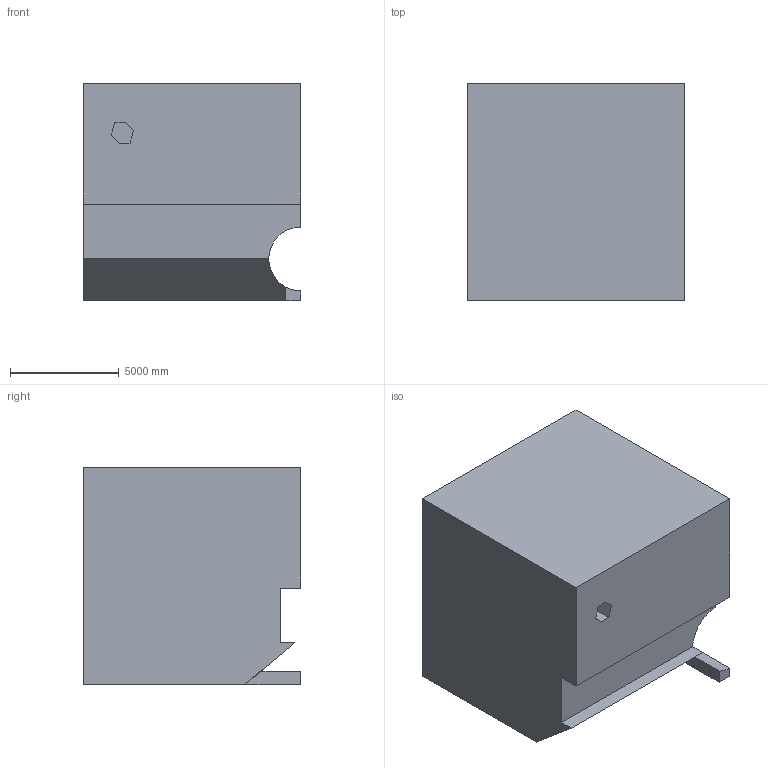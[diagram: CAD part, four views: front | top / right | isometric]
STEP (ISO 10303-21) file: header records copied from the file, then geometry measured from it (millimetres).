
FILE_DESCRIPTION (( 'STEP AP203' ), '1' );
FILE_NAME ('41.STEP', '2022-08-30T15:36:30', ( 'user' ), ( '' ), 'SwSTEP 2.0', 'SolidWorks 2021', '' );
FILE_SCHEMA (( 'CONFIG_CONTROL_DESIGN' ));
Length unit declared in the file: centimetre
Products named in the file (1): 41
Bounding box: 10000 x 10000 x 10000 mm (x, y, z)
Volume: 914084209809.6 mm3; surface area: 626960528.2 mm2
Topology: 1 solids, 1 shells, 25 faces, 63 edges, 42 vertices
Faces by surface type: plane 24, cylinder 1
Entity records: 817 total; most frequent: CARTESIAN_POINT 134, ORIENTED_EDGE 126, DIRECTION 117, EDGE_CURVE 63, LINE 59, VECTOR 59, VERTEX_POINT 42, AXIS2_PLACEMENT_3D 29
